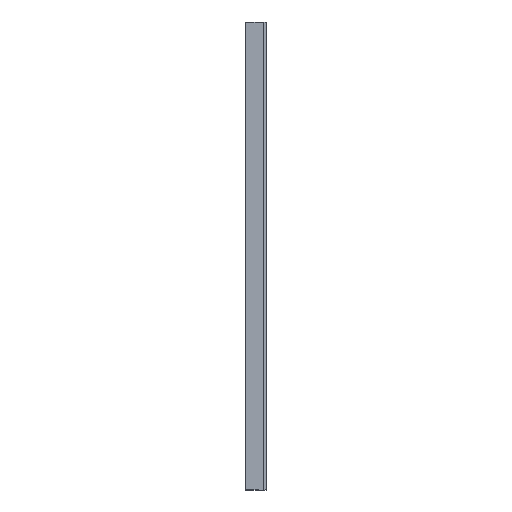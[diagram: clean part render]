
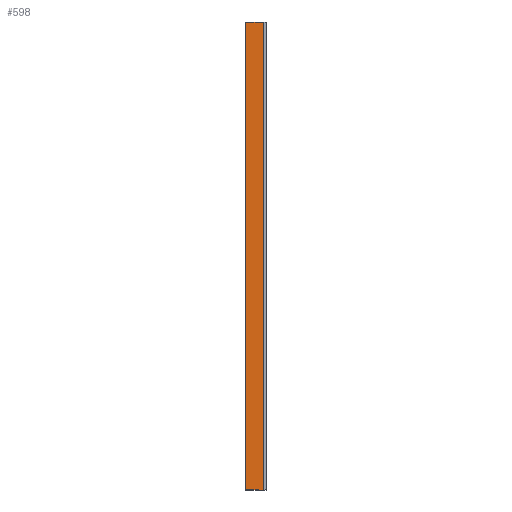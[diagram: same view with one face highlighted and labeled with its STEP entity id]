
A CAD part, left-side view. The second image highlights one B-rep face of the part: STEP entity #598.
In plain terms, the highlighted planar face has unit normal (-1, 0, 0).
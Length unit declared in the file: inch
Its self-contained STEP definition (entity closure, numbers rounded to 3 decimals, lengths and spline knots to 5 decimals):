
#67 = ORIENTED_EDGE ( 'NONE', *, *, #350, .F. ) ;
#75 = LINE ( 'NONE', #642, #958 ) ;
#89 = VERTEX_POINT ( 'NONE', #853 ) ;
#109 = DIRECTION ( 'NONE',  ( 0., 0., -1. ) ) ;
#146 = EDGE_CURVE ( 'NONE', #655, #554, #490, .T. ) ;
#219 = LINE ( 'NONE', #898, #697 ) ;
#272 = CARTESIAN_POINT ( 'NONE',  ( 0., 0.03937, 78.74016 ) ) ;
#293 = CARTESIAN_POINT ( 'NONE',  ( 0., 0.03937, 78.74016 ) ) ;
#299 = DIRECTION ( 'NONE',  ( 1., 0., 0. ) ) ;
#330 = ORIENTED_EDGE ( 'NONE', *, *, #770, .F. ) ;
#335 = CARTESIAN_POINT ( 'NONE',  ( 0., 3., 78.74016 ) ) ;
#344 = AXIS2_PLACEMENT_3D ( 'NONE', #293, #299, #109 ) ;
#350 = EDGE_CURVE ( 'NONE', #655, #601, #973, .T. ) ;
#389 = VECTOR ( 'NONE', #616, 39.37008 ) ;
#400 = DIRECTION ( 'NONE',  ( 0., -1., 0. ) ) ;
#407 = VECTOR ( 'NONE', #945, 39.37008 ) ;
#408 = CARTESIAN_POINT ( 'NONE',  ( 0., 3., 0. ) ) ;
#490 = LINE ( 'NONE', #1002, #407 ) ;
#514 = PLANE ( 'NONE',  #344 ) ;
#522 = ORIENTED_EDGE ( 'NONE', *, *, #146, .T. ) ;
#554 = VERTEX_POINT ( 'NONE', #408 ) ;
#598 = ADVANCED_FACE ( 'NONE', ( #850 ), #514, .F. ) ;
#601 = VERTEX_POINT ( 'NONE', #272 ) ;
#613 = EDGE_LOOP ( 'NONE', ( #832, #330, #67, #522 ) ) ;
#616 = DIRECTION ( 'NONE',  ( 0., -1., 0. ) ) ;
#642 = CARTESIAN_POINT ( 'NONE',  ( 0., 0.03937, 78.74016 ) ) ;
#655 = VERTEX_POINT ( 'NONE', #335 ) ;
#697 = VECTOR ( 'NONE', #400, 39.37008 ) ;
#770 = EDGE_CURVE ( 'NONE', #601, #89, #75, .T. ) ;
#780 = DIRECTION ( 'NONE',  ( 0., 0., -1. ) ) ;
#830 = CARTESIAN_POINT ( 'NONE',  ( 0., 0.03937, 78.74016 ) ) ;
#832 = ORIENTED_EDGE ( 'NONE', *, *, #840, .T. ) ;
#840 = EDGE_CURVE ( 'NONE', #554, #89, #219, .T. ) ;
#850 = FACE_OUTER_BOUND ( 'NONE', #613, .T. ) ;
#853 = CARTESIAN_POINT ( 'NONE',  ( 0., 0.03937, 0. ) ) ;
#898 = CARTESIAN_POINT ( 'NONE',  ( 0., 0.03937, 0. ) ) ;
#945 = DIRECTION ( 'NONE',  ( 0., 0., -1. ) ) ;
#958 = VECTOR ( 'NONE', #780, 39.37008 ) ;
#973 = LINE ( 'NONE', #830, #389 ) ;
#1002 = CARTESIAN_POINT ( 'NONE',  ( 0., 3., 78.74016 ) ) ;
